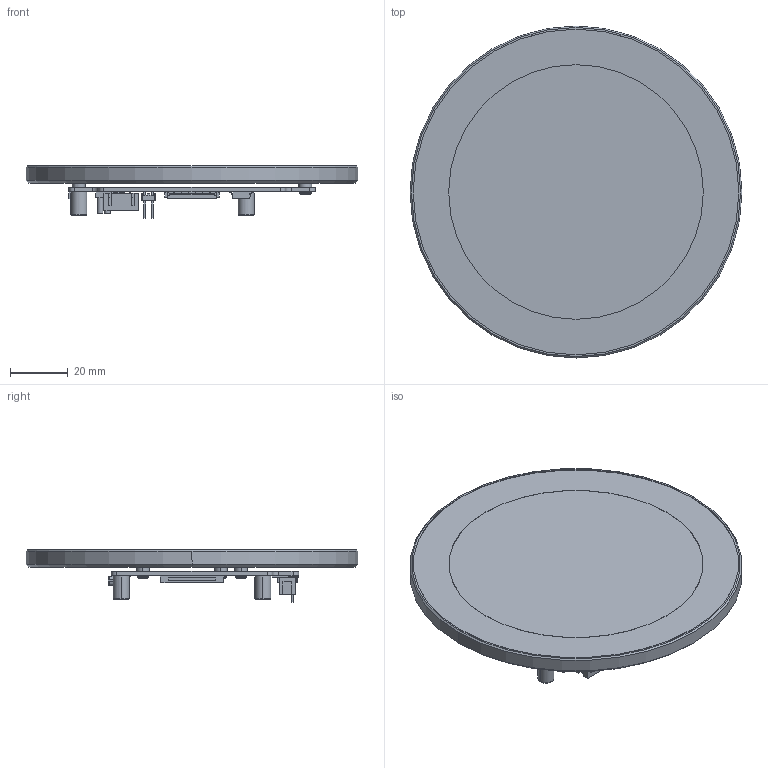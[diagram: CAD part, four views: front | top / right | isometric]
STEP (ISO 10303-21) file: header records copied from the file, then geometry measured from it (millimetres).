
FILE_DESCRIPTION((''),'2;1');
FILE_NAME('3_4INCH-800X800-LCD_CASE_ASM','2023-06-05T16:55:23',('xiaojisheng'),(''),'CREO PARAMETRIC BY PTC INC, 2021063','CREO PARAMETRIC BY PTC INC, 2021063','');
FILE_SCHEMA(('CONFIG_CONTROL_DESIGN','SHAPE_APPEARANCE_LAYERS_GROUPS'));
Products named in the file (11): 3_4INCH-DSI-LCD_C-CASE; 3_4-4INCH-DSI-LCD_C-PCB; TYPE-C_16PIN-9X3X7_3; 30PIN-0_5SH_LCD_CONNECTOR; STUDS-M2_5XH8; HP2_0-4PIN-SMT-L; 2_54_MM_DUPONT_MALE_2PIN-SMT; SWITCH-SMT-TDA04; 3_4-4INCH-DSI-LCD_C-PCBA_ASM; PM2_5X3-SCREW; 3_4INCH-800X800-LCD_CASE_ASM
Assembly tree (16 placements, depth 3):
  3_4INCH-800X800-LCD_CASE_ASM
    3_4INCH-DSI-LCD_C-CASE
    3_4-4INCH-DSI-LCD_C-PCBA_ASM
      3_4-4INCH-DSI-LCD_C-PCB
      TYPE-C_16PIN-9X3X7_3
      30PIN-0_5SH_LCD_CONNECTOR
      STUDS-M2_5XH8  x4
      HP2_0-4PIN-SMT-L
      2_54_MM_DUPONT_MALE_2PIN-SMT
      SWITCH-SMT-TDA04
    PM2_5X3-SCREW  x4
Bounding box: 115 x 115 x 18.2 mm (x, y, z)
Volume: 69242.2 mm3; surface area: 38068.1 mm2
Topology: 15 solids, 15 shells, 2273 faces, 6432 edges, 4216 vertices
Faces by surface type: plane 1483, cylinder 596, cone 85, bspline 52, extrusion 33, torus 16, sphere 8
Entity records: 87803 total; most frequent: CARTESIAN_POINT 17760, ORIENTED_EDGE 11340, DIRECTION 10332, EDGE_CURVE 5670, PRESENTATION_STYLE_ASSIGNMENT 5224, STYLED_ITEM 5182, CURVE_STYLE 4874, VECTOR 4536
